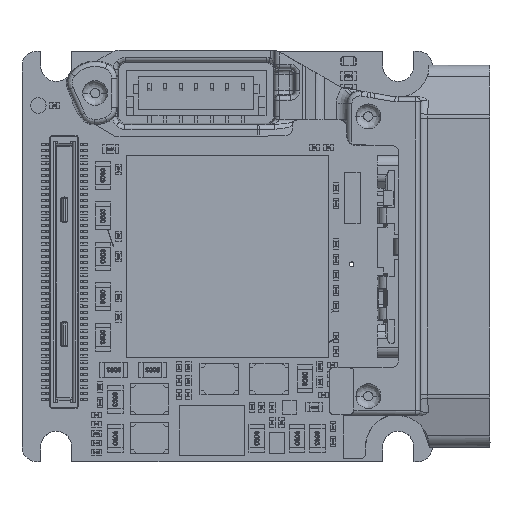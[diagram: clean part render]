
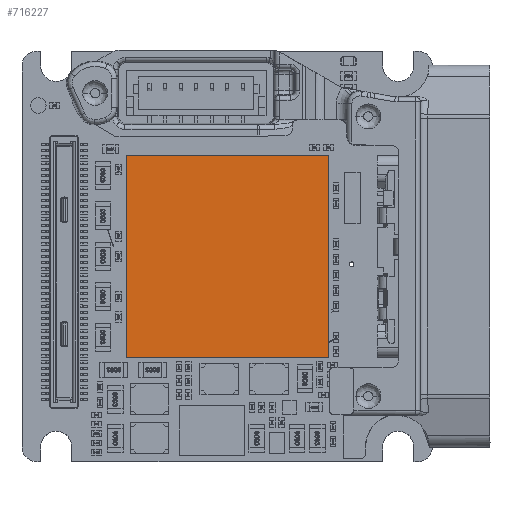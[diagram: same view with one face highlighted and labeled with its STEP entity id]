
A CAD part, top view. The second image highlights one B-rep face of the part: STEP entity #716227.
In plain terms, the highlighted planar face has unit normal (0, 0, 1).
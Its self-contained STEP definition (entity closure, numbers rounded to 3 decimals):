
#23729 = PLANE ( 'NONE',  #394059 ) ;
#31045 = ORIENTED_EDGE ( 'NONE', *, *, #191127, .F. ) ;
#66550 = LINE ( 'NONE', #414388, #696384 ) ;
#143985 = VERTEX_POINT ( 'NONE', #321199 ) ;
#145244 = LINE ( 'NONE', #557524, #592735 ) ;
#181041 = VECTOR ( 'NONE', #323876, 1000. ) ;
#187098 = VERTEX_POINT ( 'NONE', #647623 ) ;
#191127 = EDGE_CURVE ( 'NONE', #471581, #143985, #205016, .T. ) ;
#205016 = LINE ( 'NONE', #212457, #729392 ) ;
#212457 = CARTESIAN_POINT ( 'NONE',  ( -6.5, -6.5, 6.162 ) ) ;
#320211 = LINE ( 'NONE', #551110, #181041 ) ;
#321199 = CARTESIAN_POINT ( 'NONE',  ( -6.5, 6.5, 6.162 ) ) ;
#323876 = DIRECTION ( 'NONE',  ( -1., 0., 0. ) ) ;
#330209 = ORIENTED_EDGE ( 'NONE', *, *, #482519, .F. ) ;
#357410 = EDGE_CURVE ( 'NONE', #187098, #471581, #320211, .T. ) ;
#386327 = CARTESIAN_POINT ( 'NONE',  ( -6.5, -6.5, 6.162 ) ) ;
#390150 = DIRECTION ( 'NONE',  ( 0., 0., 1. ) ) ;
#394059 = AXIS2_PLACEMENT_3D ( 'NONE', #386327, #390150, #723544 ) ;
#414388 = CARTESIAN_POINT ( 'NONE',  ( -6.5, 6.5, 6.162 ) ) ;
#471581 = VERTEX_POINT ( 'NONE', #518626 ) ;
#474865 = DIRECTION ( 'NONE',  ( 1., 0., 0. ) ) ;
#482519 = EDGE_CURVE ( 'NONE', #143985, #706245, #66550, .T. ) ;
#518626 = CARTESIAN_POINT ( 'NONE',  ( -6.5, -6.5, 6.162 ) ) ;
#541951 = FACE_OUTER_BOUND ( 'NONE', #731766, .T. ) ;
#551110 = CARTESIAN_POINT ( 'NONE',  ( 6.5, -6.5, 6.162 ) ) ;
#556050 = ORIENTED_EDGE ( 'NONE', *, *, #644613, .F. ) ;
#557524 = CARTESIAN_POINT ( 'NONE',  ( 6.5, 6.5, 6.162 ) ) ;
#592735 = VECTOR ( 'NONE', #660056, 1000. ) ;
#621131 = DIRECTION ( 'NONE',  ( 0., 1., 0. ) ) ;
#644613 = EDGE_CURVE ( 'NONE', #706245, #187098, #145244, .T. ) ;
#647623 = CARTESIAN_POINT ( 'NONE',  ( 6.5, -6.5, 6.162 ) ) ;
#649505 = ORIENTED_EDGE ( 'NONE', *, *, #357410, .F. ) ;
#660056 = DIRECTION ( 'NONE',  ( 0., -1., 0. ) ) ;
#696384 = VECTOR ( 'NONE', #474865, 1000. ) ;
#706245 = VERTEX_POINT ( 'NONE', #735789 ) ;
#716227 = ADVANCED_FACE ( 'NONE', ( #541951 ), #23729, .T. ) ;
#723544 = DIRECTION ( 'NONE',  ( 1., 0., 0. ) ) ;
#729392 = VECTOR ( 'NONE', #621131, 1000. ) ;
#731766 = EDGE_LOOP ( 'NONE', ( #649505, #556050, #330209, #31045 ) ) ;
#735789 = CARTESIAN_POINT ( 'NONE',  ( 6.5, 6.5, 6.162 ) ) ;
